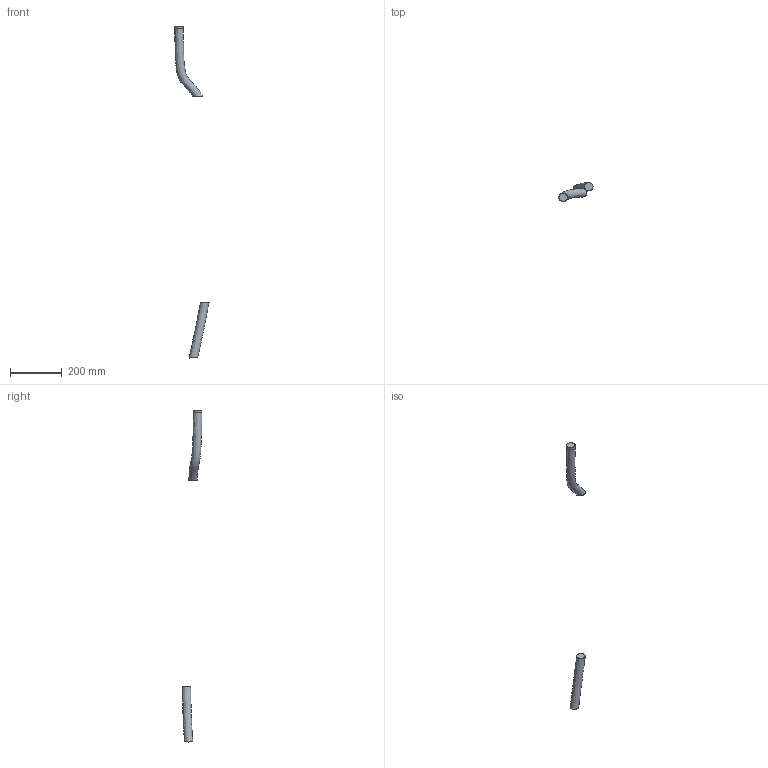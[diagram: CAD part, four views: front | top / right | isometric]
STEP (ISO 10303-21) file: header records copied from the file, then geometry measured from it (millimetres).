
FILE_DESCRIPTION (( 'STEP AP214' ), '1' );
FILE_NAME ('IRB77X0_All_OC_00_LINK02m_CABLE.step', '2026-01-28T10:08:43', ( '' ), ( '' ), 'SwSTEP 2.0', 'SolidWorks 2024', '' );
FILE_SCHEMA (( 'AUTOMOTIVE_DESIGN' ));
Length unit declared in the file: millimetre
Products named in the file (1): IRB77X0_All_OC_00_LINK02m_CABLE
Bounding box: 132.1 x 75.97 x 1284.77 mm (x, y, z)
Volume: 439306.6 mm3; surface area: 56893.5 mm2
Topology: 2 solids, 2 shells, 7 faces, 9 edges, 6 vertices
Faces by surface type: plane 4, bspline 3
Entity records: 1200 total; most frequent: CARTESIAN_POINT 1087, DIRECTION 12, FACE_OUTER_BOUND 10, EDGE_LOOP 10, ORIENTED_EDGE 10, ADVANCED_FACE 7, AXIS2_PLACEMENT_3D 6, VERTEX_POINT 5
